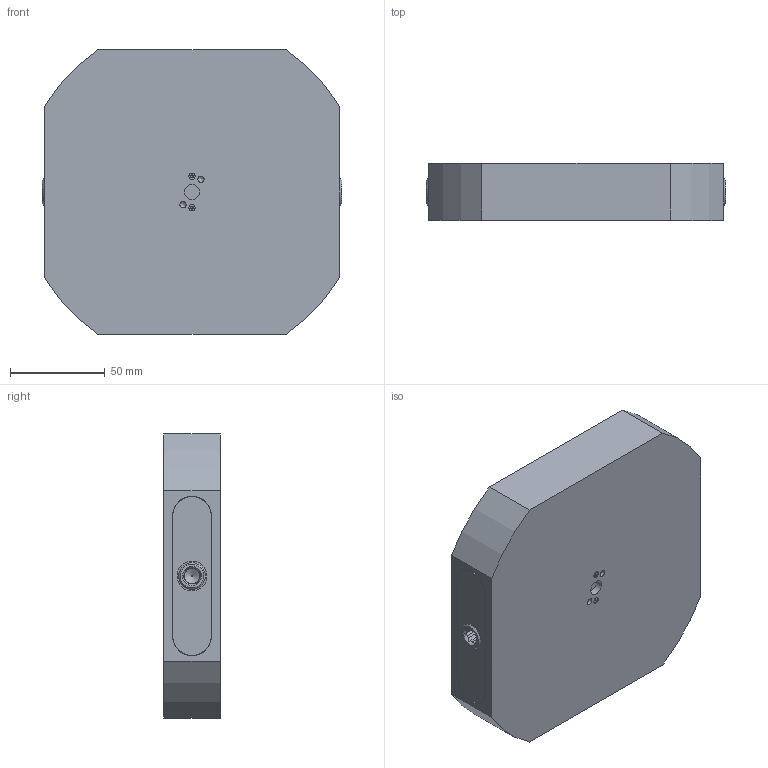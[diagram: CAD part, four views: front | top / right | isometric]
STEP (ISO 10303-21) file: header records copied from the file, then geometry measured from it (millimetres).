
FILE_DESCRIPTION (( 'STEP AP214' ), '1' );
FILE_NAME ('RL96S-66_WEBSITE.STEP', '2025-08-11T11:34:57', ( '' ), ( '' ), 'SwSTEP 2.0', 'SolidWorks 2025', '' );
FILE_SCHEMA (( 'AUTOMOTIVE_DESIGN' ));
Length unit declared in the file: inch
Products named in the file (10): 9452K183-Base-O-Ring_WEBSITE; D_RL96-2R_WEBSITE; D_SB54_WEBSITE_FINISHED PART; 9452K121-Truck-O-Ring_WEBSITE; 9750K730_PLASTIC ROUND PLUG_WEBSITE_9750K73; D_RL96-2L_WEBSITE; RL96S-66_WEBSITE; D_RL96-166S_WEBSITE; D_RL96-3_WEBSITE; D_HW27X20.DB_WEBSITE
Assembly tree (16 placements, depth 2):
  9750K730_PLASTIC ROUND PLUG_WEBSITE_9750K73
  RL96S-66_WEBSITE
    D_RL96-166S_WEBSITE
    D_SB54_WEBSITE_FINISHED PART  x2
    D_HW27X20.DB_WEBSITE  x4
    D_RL96-3_WEBSITE
    D_RL96-2R_WEBSITE
    D_RL96-2L_WEBSITE
    9452K183-Base-O-Ring_WEBSITE  x4
    9452K121-Truck-O-Ring_WEBSITE  x2
Bounding box: 158 x 30 x 150 mm (x, y, z)
Volume: 589082.1 mm3; surface area: 121976.2 mm2
Topology: 18 solids, 18 shells, 276 faces, 609 edges, 381 vertices
Faces by surface type: plane 165, cylinder 83, cone 16, torus 10, bspline 2
Full cylindrical faces by diameter (mm): 0.127 x2, 2.5 x2, 3.3 x4, 4 x2, 4.7 x2, 5 x2, 5.182 x2, 8.026 x1, 8.204 x2, 9 x2, 9.525 x2, 10.795 x1, 11.938 x4, 12.573 x4, 14 x2, 15.748 x2, 19.05 x2, 19.101 x4, 19.99 x1, 20.015 x4, 20.035 x4, 26.977 x4, 26.993 x4, 27.051 x4
Entity records: 9506 total; most frequent: CARTESIAN_POINT 3131, DIRECTION 1062, ORIENTED_EDGE 856, AXIS2_PLACEMENT_3D 429, EDGE_CURVE 428, EDGE_LOOP 340, VERTEX_POINT 304, FACE_OUTER_BOUND 281
